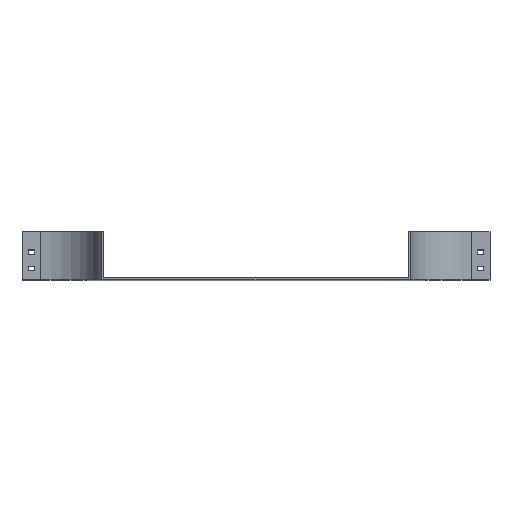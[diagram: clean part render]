
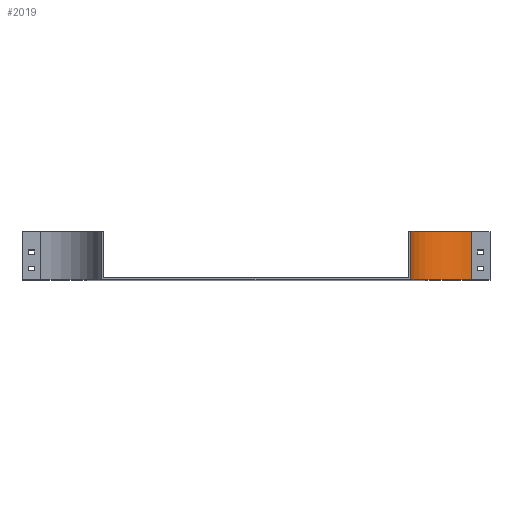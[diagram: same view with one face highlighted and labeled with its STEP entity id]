
A CAD part, top view. The second image highlights one B-rep face of the part: STEP entity #2019.
In plain terms, the highlighted cylindrical face has radius 100 mm (diameter 200 mm), a partial arc.
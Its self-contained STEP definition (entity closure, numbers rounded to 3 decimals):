
#162 = ORIENTED_EDGE ( 'NONE', *, *, #3273, .F. ) ;
#302 = VECTOR ( 'NONE', #1981, 1000. ) ;
#321 = CARTESIAN_POINT ( 'NONE',  ( -100., 0., 0. ) ) ;
#424 = VERTEX_POINT ( 'NONE', #2214 ) ;
#440 = CARTESIAN_POINT ( 'NONE',  ( 0., 79., 0. ) ) ;
#589 = CIRCLE ( 'NONE', #1474, 100. ) ;
#942 = LINE ( 'NONE', #3660, #974 ) ;
#974 = VECTOR ( 'NONE', #1863, 1000. ) ;
#1021 = CARTESIAN_POINT ( 'NONE',  ( 0., 79., -100. ) ) ;
#1270 = AXIS2_PLACEMENT_3D ( 'NONE', #440, #3102, #2850 ) ;
#1370 = EDGE_CURVE ( 'NONE', #1797, #424, #589, .T. ) ;
#1457 = DIRECTION ( 'NONE',  ( 0., -1., 0. ) ) ;
#1474 = AXIS2_PLACEMENT_3D ( 'NONE', #1750, #2659, #2396 ) ;
#1590 = AXIS2_PLACEMENT_3D ( 'NONE', #2363, #1457, #2607 ) ;
#1667 = ORIENTED_EDGE ( 'NONE', *, *, #3182, .T. ) ;
#1750 = CARTESIAN_POINT ( 'NONE',  ( 0., 0., 0. ) ) ;
#1788 = VERTEX_POINT ( 'NONE', #2652 ) ;
#1797 = VERTEX_POINT ( 'NONE', #321 ) ;
#1818 = EDGE_LOOP ( 'NONE', ( #2914, #3140, #162, #1667 ) ) ;
#1863 = DIRECTION ( 'NONE',  ( 0., -1., 0. ) ) ;
#1981 = DIRECTION ( 'NONE',  ( 0., -1., 0. ) ) ;
#2019 = ADVANCED_FACE ( 'NONE', ( #2208 ), #3388, .F. ) ;
#2208 = FACE_OUTER_BOUND ( 'NONE', #1818, .T. ) ;
#2214 = CARTESIAN_POINT ( 'NONE',  ( 0., 0., -100. ) ) ;
#2363 = CARTESIAN_POINT ( 'NONE',  ( 0., 79., 0. ) ) ;
#2396 = DIRECTION ( 'NONE',  ( 0., 0., -1. ) ) ;
#2588 = CIRCLE ( 'NONE', #1270, 100. ) ;
#2607 = DIRECTION ( 'NONE',  ( 0., 0., -1. ) ) ;
#2652 = CARTESIAN_POINT ( 'NONE',  ( -100., 79., 0. ) ) ;
#2659 = DIRECTION ( 'NONE',  ( 0., -1., 0. ) ) ;
#2850 = DIRECTION ( 'NONE',  ( 0., 0., -1. ) ) ;
#2914 = ORIENTED_EDGE ( 'NONE', *, *, #1370, .T. ) ;
#2958 = CARTESIAN_POINT ( 'NONE',  ( 0., 79., -100. ) ) ;
#3102 = DIRECTION ( 'NONE',  ( 0., -1., 0. ) ) ;
#3140 = ORIENTED_EDGE ( 'NONE', *, *, #3633, .F. ) ;
#3182 = EDGE_CURVE ( 'NONE', #1788, #1797, #942, .T. ) ;
#3273 = EDGE_CURVE ( 'NONE', #1788, #3382, #2588, .T. ) ;
#3382 = VERTEX_POINT ( 'NONE', #2958 ) ;
#3388 = CYLINDRICAL_SURFACE ( 'NONE', #1590, 100. ) ;
#3633 = EDGE_CURVE ( 'NONE', #3382, #424, #3690, .T. ) ;
#3660 = CARTESIAN_POINT ( 'NONE',  ( -100., 79., 0. ) ) ;
#3690 = LINE ( 'NONE', #1021, #302 ) ;
